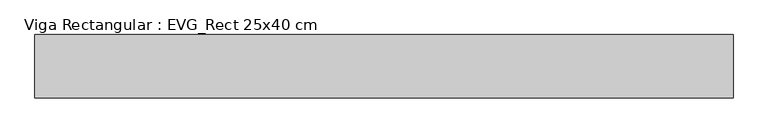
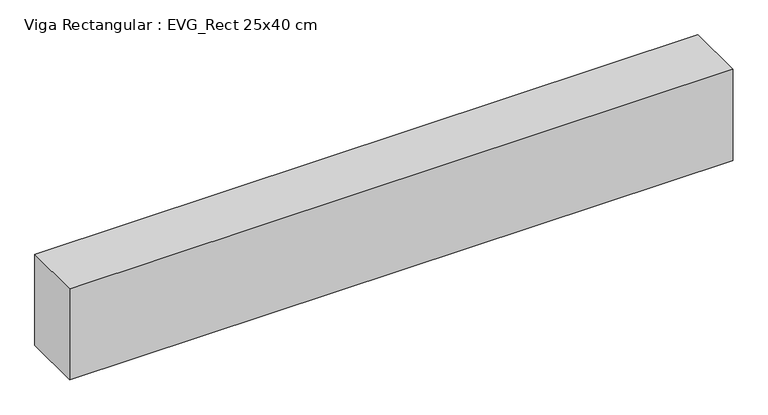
"""IFC4 building model written with IfcOpenShell, lengths in millimetres: beam geometry, Viga Rectangular : EVG_Rect 25x40 cm."""

import ifcopenshell
import ifcopenshell.guid

model = None  # the IFC model being written
_history = None  # IfcOwnerHistory: only IFC2X3 demands one
_inside = {}  # id of a spatial element -> (the spatial element, [elements in it])
_under = {}  # id of a project, library or spatial element -> (it, [spatial elements below it])
_declared = {}  # id of a project -> (the project, [libraries it declares])
_typed = {}  # id of a type object -> (the type object, [elements of that type])
_made_of = {}  # id of a material, layer set ... -> (it, [elements and type objects made of it])


def new_model(schema):
    """Start an empty IFC model of exactly this schema.

    Asked for "IFC4X3", IfcOpenShell would pick the latest addendum, in which some entities
    have other attributes; the version numbers below select the first issue.
    IFC2X3 requires an IfcOwnerHistory on every rooted entity: one is made here for all.
    """
    global model, _history
    if schema == "IFC4X3":
        model = ifcopenshell.file(schema_version=(4, 3, 0, 0))
    else:
        model = ifcopenshell.file(schema=schema)
    _inside.clear()
    _under.clear()
    _declared.clear()
    _typed.clear()
    _made_of.clear()
    _history = None
    if model.schema == "IFC2X3":
        org = make("IfcOrganization", Name="unknown")
        user = make(
            "IfcPersonAndOrganization",
            ThePerson=make("IfcPerson", FamilyName="unknown"),
            TheOrganization=org,
        )
        app = make(
            "IfcApplication",
            ApplicationDeveloper=org,
            Version="unknown",
            ApplicationFullName="unknown",
            ApplicationIdentifier="unknown",
        )
        _history = make(
            "IfcOwnerHistory",
            OwningUser=user,
            OwningApplication=app,
            ChangeAction="ADDED",
            CreationDate=0,
        )
    return model


def make(cls, **values):
    """One entity of the class cls with the attributes given. An attribute that is None is left unset."""
    return model.create_entity(
        cls, **{name: value for name, value in values.items() if value is not None}
    )


def rooted(cls, **values):
    """An entity with a GlobalId (a new one), such as an element, a storey or a relation."""
    return make(cls, GlobalId=ifcopenshell.guid.new(), OwnerHistory=_history, **values)


def si_unit(unit_type, name, prefix=None):
    """IfcSIUnit, for example si_unit("LENGTHUNIT", "METRE", prefix="MILLI")."""
    return make("IfcSIUnit", UnitType=unit_type, Prefix=prefix, Name=name)


def assignment(units):
    """IfcUnitAssignment: the units of a project."""
    return None if units is None else make("IfcUnitAssignment", Units=units)


def point(xyz):
    """IfcCartesianPoint."""
    return None if xyz is None else make("IfcCartesianPoint", Coordinates=xyz)


def direction(xyz):
    """IfcDirection."""
    return None if xyz is None else make("IfcDirection", DirectionRatios=xyz)


def frame(location, z_axis=None, x_axis=None):
    """IfcAxis2Placement3D, a coordinate frame: its origin and axes. An axis left out is left unset."""
    return make(
        "IfcAxis2Placement3D",
        Location=point(location),
        Axis=direction(z_axis),
        RefDirection=direction(x_axis),
    )


def origin():
    """The frame at (0, 0, 0) with its axes left unset."""
    return frame((0.0, 0.0, 0.0))


def place(relative_to, where):
    """IfcLocalPlacement: puts the frame where relative to a parent placement (None: the world)."""
    return make(
        "IfcLocalPlacement", PlacementRelTo=relative_to, RelativePlacement=where
    )


def context(
    kind, dimensions, precision=None, world=None, true_north=None, identifier=None
):
    """IfcGeometricRepresentationContext, for example the 3D "Model" context."""
    return make(
        "IfcGeometricRepresentationContext",
        ContextIdentifier=identifier,
        ContextType=kind,
        CoordinateSpaceDimension=dimensions,
        Precision=precision,
        WorldCoordinateSystem=world,
        TrueNorth=true_north,
    )


def project(units=None, contexts=None):
    """IfcProject with its units and contexts."""
    return rooted(
        "IfcProject",
        Name="project",
        RepresentationContexts=contexts,
        UnitsInContext=assignment(units),
    )


def spatial(cls, under=None, at=None, **own):
    """A site, building, storey or space (cls), placed at a placement, below another one or the project."""
    s = rooted(cls, ObjectPlacement=at, **own)
    if under is not None:
        _under.setdefault(under.id(), (under, []))[1].append(s)
    return s


def polyline(points):
    """IfcPolyline through the points."""
    return make("IfcPolyline", Points=[point(p) for p in points])


def outline(outer, holes=None, kind="AREA"):
    """IfcArbitraryClosedProfileDef: a profile drawn as a closed curve; with holes, ...WithVoids."""
    if holes is None:
        return make("IfcArbitraryClosedProfileDef", ProfileType=kind, OuterCurve=outer)
    return make(
        "IfcArbitraryProfileDefWithVoids",
        ProfileType=kind,
        OuterCurve=outer,
        InnerCurves=holes,
    )


def extrude(swept, where, along, depth):
    """IfcExtrudedAreaSolid: the profile swept, set in the frame where, extruded along a direction by depth."""
    return make(
        "IfcExtrudedAreaSolid",
        SweptArea=swept,
        Position=where,
        ExtrudedDirection=direction(along),
        Depth=depth,
    )


def shape(context_of_items, identifier, shape_type, items):
    """IfcShapeRepresentation: the items that make up one representation, for example the "Body"."""
    return make(
        "IfcShapeRepresentation",
        ContextOfItems=context_of_items,
        RepresentationIdentifier=identifier,
        RepresentationType=shape_type,
        Items=items,
    )


def source(mapping_origin, context_of_items, identifier, shape_type, items):
    """IfcRepresentationMap: a shape defined once, which mapped items show again and again."""
    return make(
        "IfcRepresentationMap",
        MappingOrigin=mapping_origin,
        MappedRepresentation=shape(context_of_items, identifier, shape_type, items),
    )


def transform(
    local_origin,
    x_axis=None,
    y_axis=None,
    z_axis=None,
    scale=None,
    scale2=None,
    scale3=None,
    uniform=True,
):
    """IfcCartesianTransformationOperator3D, or its non-uniform kind. x_axis, y_axis, z_axis: its Axis1, 2, 3."""
    if uniform:
        return make(
            "IfcCartesianTransformationOperator3D",
            Axis1=direction(x_axis),
            Axis2=direction(y_axis),
            LocalOrigin=point(local_origin),
            Scale=scale,
            Axis3=direction(z_axis),
        )
    return make(
        "IfcCartesianTransformationOperator3DnonUniform",
        Axis1=direction(x_axis),
        Axis2=direction(y_axis),
        LocalOrigin=point(local_origin),
        Scale=scale,
        Axis3=direction(z_axis),
        Scale2=scale2,
        Scale3=scale3,
    )


def mapped(mapping_source, mapping_target):
    """IfcMappedItem: shows the shape of a source again, moved by a transform."""
    return make(
        "IfcMappedItem", MappingSource=mapping_source, MappingTarget=mapping_target
    )


def made_of(thing, what):
    """Note that an element or type object is made of a material, layer set ...; save() writes the relation."""
    if what is not None:
        _made_of.setdefault(what.id(), (what, []))[1].append(thing)
    return thing


def element(
    cls,
    number,
    at=None,
    inside=None,
    cuts=None,
    type_object=None,
    material=None,
    context=None,
    identifier="Body",
    shape_type=None,
    held_by="IfcProductDefinitionShape",
    body=None,
    shapes=None,
    **own,
):
    """One element of the class cls, such as IfcWall. Its Tag is "e" and its number.

    at: its placement. inside: the storey or other place that contains it. cuts: it is an
    opening in that element (IfcRelVoidsElement). A single representation is given by context,
    identifier, shape_type and body (its items); several are given by shapes. held_by: the class
    of the entity that holds the representations. save() writes the other relations.
    """
    e = rooted(cls, Tag="e%d" % number, ObjectPlacement=at, **own)
    if body is not None:
        shapes = [shape(context, identifier, shape_type, body)]
    if shapes is not None:
        e.Representation = make(held_by, Representations=shapes)
    if inside is not None:
        _inside.setdefault(inside.id(), (inside, []))[1].append(e)
    if cuts is not None:
        rooted(
            "IfcRelVoidsElement", RelatingBuildingElement=cuts, RelatedOpeningElement=e
        )
    if type_object is not None:
        _typed.setdefault(type_object.id(), (type_object, []))[1].append(e)
    return made_of(e, material)


def aggregate(whole, parts):
    """IfcRelAggregates: a whole, such as a stair, and the parts it consists of."""
    return rooted("IfcRelAggregates", RelatingObject=whole, RelatedObjects=parts)


def save(model, path):
    """Write the relations noted so far, then the file.

    IfcRelAggregates (storeys below a building ...), IfcRelContainedInSpatialStructure (elements
    in a storey), IfcRelDefinesByType, IfcRelAssociatesMaterial and IfcRelDeclares: one each for
    every whole, place, type object, material and project.
    """
    for whole, parts in _under.values():
        aggregate(whole, parts)
    for where, things in _inside.values():
        rooted(
            "IfcRelContainedInSpatialStructure",
            RelatedElements=things,
            RelatingStructure=where,
        )
    for kind, things in _typed.values():
        rooted("IfcRelDefinesByType", RelatedObjects=things, RelatingType=kind)
    for what, things in _made_of.values():
        rooted("IfcRelAssociatesMaterial", RelatedObjects=things, RelatingMaterial=what)
    for by, libraries in _declared.values():
        rooted("IfcRelDeclares", RelatingContext=by, RelatedDefinitions=libraries)
    model.write(path)


def viga_rectangular_evg_rect_25x40_cm_42ceb3dc(model_context):
    return source(origin(), model_context, "Body", "SweptSolid", [
        extrude(outline(polyline([(1375.0, 125.0), (1375.0, -125.0), (-1375.0, -125.0), (-1375.0, 125.0), (1375.0, 125.0)])), frame((0.0, 0.0, -400.0), z_axis=(0.0, 0.0, 1.0), x_axis=(1.0, 0.0, 0.0)), (0.0, 0.0, 1.0), 400.0),
    ])


if __name__ == "__main__":
    model = new_model("IFC4")
    model_context = context("Model", 3, world=origin())
    ifc_project = project(units=[si_unit("LENGTHUNIT", "METRE", prefix="MILLI")], contexts=[model_context])
    site = spatial("IfcSite", under=ifc_project)
    building = spatial("IfcBuilding", under=site)
    placement = place(None, origin())
    viga_rectangular_evg_rect_25x40_cm_shape = viga_rectangular_evg_rect_25x40_cm_42ceb3dc(model_context)
    element("IfcBeam", 1, ObjectType="Viga Rectangular : EVG_Rect 25x40 cm", at=placement, inside=building, context=model_context, shape_type="MappedRepresentation", body=[
        mapped(viga_rectangular_evg_rect_25x40_cm_shape, transform((0.0, 0.0, 0.0), x_axis=(1.0, 0.0, 0.0), y_axis=(0.0, 1.0, 0.0), z_axis=(0.0, 0.0, 1.0))),
    ])
    save(model, "model.ifc")
